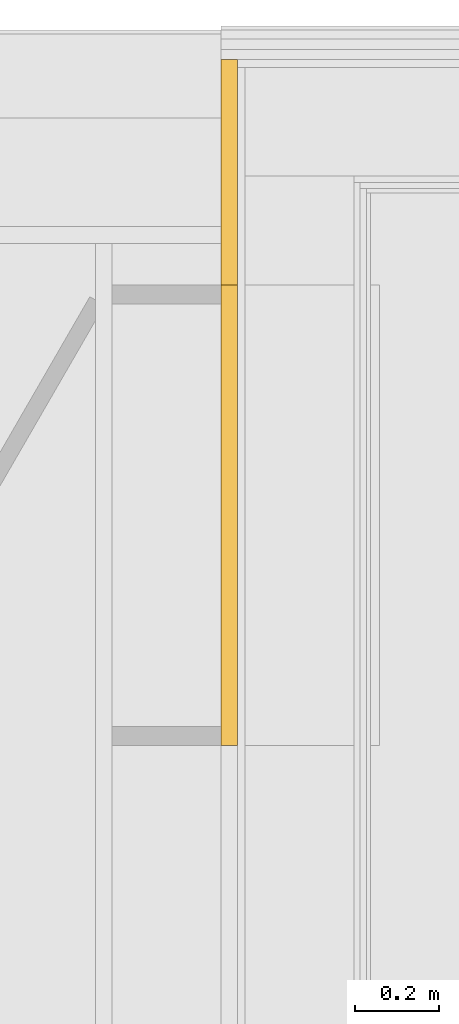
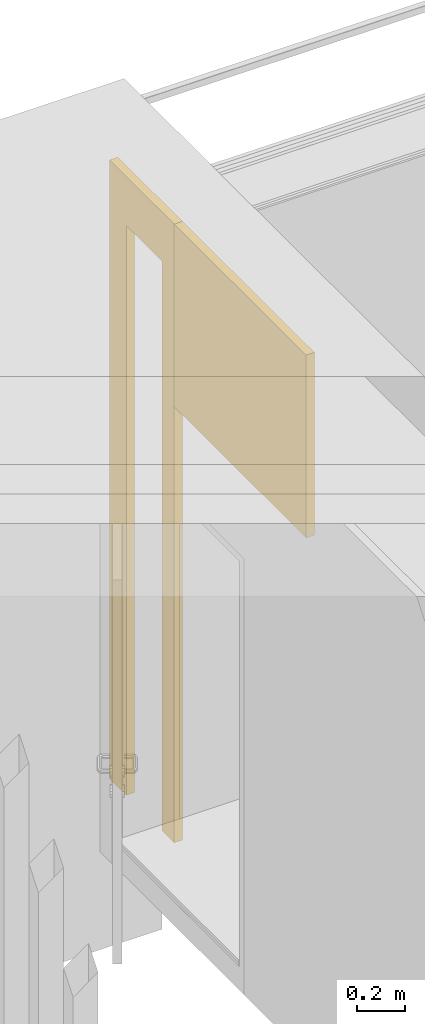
# One storey, part 29 of 36: 2 coverings, 1 opening.
"""IFC4 building model written with IfcOpenShell, lengths in millimetres."""

from ifc_helpers import new_model, entity, si_unit, converted_unit, derived_unit, direction, frame, origin_with_axes, place, context, subcontext, project, spatial, polygons, material, type_object, element, save


model = new_model("IFC4")

# Units and contexts
model_context = context("Model", 3, precision=0.01, world=origin_with_axes(), true_north=direction((0.0, 1.0)))
body_context = subcontext(model_context, "Body", "Model", "MODEL_VIEW")
ifc_project = project(units=[si_unit("LENGTHUNIT", "METRE", prefix="MILLI"), si_unit("AREAUNIT", "SQUARE_METRE"), si_unit("VOLUMEUNIT", "CUBIC_METRE"), converted_unit("PLANEANGLEUNIT", "DEGREE", entity("IfcPlaneAngleMeasure", 0.0174532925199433), si_unit("PLANEANGLEUNIT", "RADIAN"), dimensions=[0, 0, 0, 0, 0, 0, 0]), converted_unit("TIMEUNIT", "Year", entity("IfcTimeMeasure", 31557600.0), si_unit("TIMEUNIT", "SECOND"), dimensions=[0, 0, 1, 0, 0, 0, 0]), si_unit("MASSUNIT", "GRAM", prefix="KILO"), si_unit("THERMODYNAMICTEMPERATUREUNIT", "DEGREE_CELSIUS"), si_unit("LUMINOUSINTENSITYUNIT", "LUMEN"), si_unit("ENERGYUNIT", "JOULE", prefix="MEGA"), derived_unit("THERMALCONDUCTANCEUNIT", [(si_unit("POWERUNIT", "WATT"), 1), (si_unit("LENGTHUNIT", "METRE"), -1), (si_unit("THERMODYNAMICTEMPERATUREUNIT", "KELVIN"), -1)]), derived_unit("SPECIFICHEATCAPACITYUNIT", [(si_unit("ENERGYUNIT", "JOULE"), 1), (si_unit("MASSUNIT", "GRAM", prefix="KILO"), -1), (si_unit("THERMODYNAMICTEMPERATUREUNIT", "KELVIN"), -1)]), derived_unit("MASSDENSITYUNIT", [(si_unit("MASSUNIT", "GRAM", prefix="KILO"), 1), (si_unit("VOLUMEUNIT", "CUBIC_METRE"), -1)])], contexts=[model_context])

# Site, building, storey
site_placement = place(None, origin_with_axes())
site = spatial("IfcSite", under=ifc_project, at=site_placement, Name="Gelände", CompositionType="ELEMENT")
building_placement = place(site_placement, origin_with_axes())
building = spatial("IfcBuilding", under=site, at=building_placement, Name="Gebäude", CompositionType="ELEMENT")
storey_placement = place(building_placement, frame((0.0, 0.0, 8700.0), z_axis=(0.0, 0.0, 1.0), x_axis=(1.0, 0.0, 0.0)))
storey = spatial("IfcBuildingStorey", under=building, at=storey_placement, Name="Attika", CompositionType="ELEMENT", Elevation=8700.0)

# Covering, opening
ifc_material = material(Name="Dämmung Innen")
covering_type = type_object("IfcCoveringType", Name="Dämmung Innen 40", PredefinedType="NOTDEFINED")
covering_1_placement = place(storey_placement, frame((20428.99744477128, 36237.59728131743, 2719.999999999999), z_axis=(0.0, 0.0, 1.0), x_axis=(0.0, 1.0, 0.0)))
covering_1 = element("IfcCovering", 1, at=covering_1_placement, inside=storey, type_object=covering_type, material=ifc_material, Name="Wand-015", PredefinedType="NOTDEFINED", context=body_context, shape_type="Tessellation", body=[
    polygons([(0.0, -39.99999999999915, 929.9999999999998), (1100.000000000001, -39.99999999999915, 929.9999999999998), (1100.000000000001, 0.0, 929.9999999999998), (0.0, 0.0, 929.9999999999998), (0.0, -39.99999999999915, 0.0), (1100.000000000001, -39.99999999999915, 0.0), (1100.000000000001, 0.0, 0.0), (0.0, 0.0, 0.0)], [[[1, 2, 3, 4]], [[5, 6, 2, 1]], [[3, 2, 6, 7]], [[4, 3, 7, 8]], [[5, 1, 4, 8]], [[8, 7, 6, 5]]], closed=True),
])
opening_placement = place(covering_1_placement, frame((-36237.59728131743, 20428.99744477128, -11420.0), z_axis=(0.0, 0.0, 1.0), x_axis=(0.0, -1.0, 0.0)))
element("IfcOpeningElement", 2, at=opening_placement, cuts=covering_1, Name="DD-006", PredefinedType="NOTDEFINED", context=body_context, identifier="Reference", shape_type="Tessellation", body=[
    polygons([(20508.99744477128, 36544.63619554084, 10145.0), (20508.99744477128, 36544.63619554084, 10645.0), (20388.99744477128, 36544.63619554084, 10645.0), (20388.99744477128, 36544.63619554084, 10145.0), (20508.99744477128, 37044.63619554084, 10145.0), (20508.99744477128, 37044.63619554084, 10645.0), (20388.99744477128, 37044.63619554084, 10645.0), (20388.99744477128, 37044.63619554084, 10145.0)], [[[1, 2, 3, 4]], [[1, 5, 6, 2]], [[2, 6, 7, 3]], [[4, 3, 7, 8]], [[5, 1, 4, 8]], [[6, 5, 8, 7]]], closed=True),
])

# Covering
covering_2_placement = place(storey_placement, frame((20428.99744477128, 37337.59728131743, 500.0), z_axis=(0.0, 0.0, 1.0), x_axis=(0.0, 1.0, 0.0)))
element("IfcCovering", 3, at=covering_2_placement, inside=storey, type_object=covering_type, material=ifc_material, Name="Wand-015", PredefinedType="NOTDEFINED", context=body_context, shape_type="Tessellation", body=[
    polygons([(100.0000000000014, -39.99999999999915, 2900.0), (399.9999999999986, -39.99999999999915, 2900.0), (399.9999999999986, -39.99999999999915, 0.0), (539.0000000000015, -39.99999999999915, 0.0), (539.0000000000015, -39.99999999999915, 3149.999999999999), (0.0, -39.99999999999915, 3149.999999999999), (0.0, -39.99999999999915, 0.0), (100.0000000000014, -39.99999999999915, 0.0), (100.0000000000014, 0.0, 2900.0), (399.9999999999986, 0.0, 2900.0), (399.9999999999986, 0.0, 0.0), (539.0000000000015, 0.0, 0.0), (539.0000000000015, 0.0, 3149.999999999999), (0.0, 0.0, 3149.999999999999), (0.0, 0.0, 0.0), (100.0000000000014, 0.0, 0.0)], [[[1, 2, 3, 4, 5, 6, 7, 8]], [[9, 10, 2, 1]], [[11, 3, 2, 10]], [[4, 3, 11, 12]], [[12, 13, 5, 4]], [[14, 6, 5, 13]], [[15, 7, 6, 14]], [[15, 16, 8, 7]], [[9, 1, 8, 16]], [[11, 10, 9, 16, 15, 14, 13, 12]]], closed=True),
])

save(model, "model.ifc")
